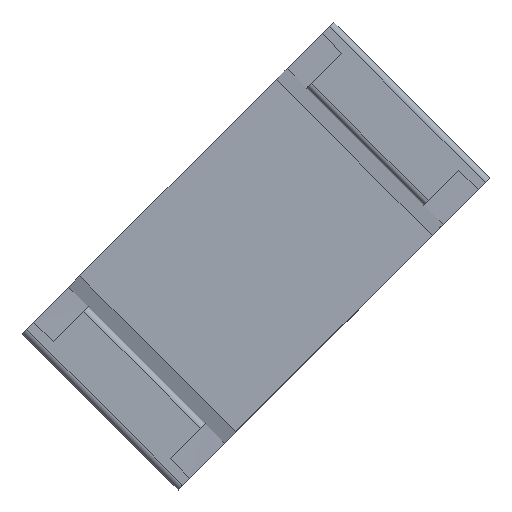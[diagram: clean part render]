
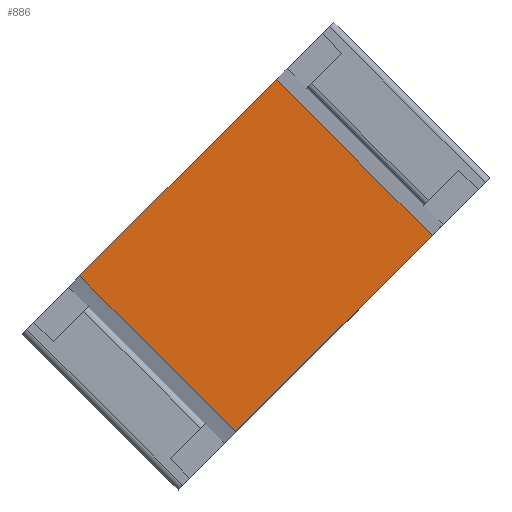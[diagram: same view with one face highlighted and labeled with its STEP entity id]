
A CAD part, top view. The second image highlights one B-rep face of the part: STEP entity #886.
In plain terms, the highlighted planar face has unit normal (0, 0, 1).
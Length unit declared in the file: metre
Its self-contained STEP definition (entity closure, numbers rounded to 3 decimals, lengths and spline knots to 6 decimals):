
#244=ORIENTED_EDGE('',*,*,#390,.T.);
#245=ORIENTED_EDGE('',*,*,#391,.T.);
#246=ORIENTED_EDGE('',*,*,#388,.F.);
#247=ORIENTED_EDGE('',*,*,#384,.F.);
#384=EDGE_CURVE('',#467,#468,#565,.T.);
#388=EDGE_CURVE('',#468,#469,#569,.T.);
#390=EDGE_CURVE('',#467,#470,#571,.T.);
#391=EDGE_CURVE('',#470,#469,#572,.T.);
#467=VERTEX_POINT('',#1666);
#468=VERTEX_POINT('',#1668);
#469=VERTEX_POINT('',#1675);
#470=VERTEX_POINT('',#1679);
#565=LINE('',#1667,#668);
#569=LINE('',#1674,#672);
#571=LINE('',#1678,#674);
#572=LINE('',#1680,#675);
#668=VECTOR('',#1423,1.);
#672=VECTOR('',#1431,1.);
#674=VECTOR('',#1435,1.);
#675=VECTOR('',#1436,1.);
#719=EDGE_LOOP('',(#244,#245,#246,#247));
#764=FACE_BOUND('',#719,.T.);
#800=PLANE('',#1214);
#886=ADVANCED_FACE('',(#764),#800,.T.);
#1214=AXIS2_PLACEMENT_3D('',#1677,#1433,#1434);
#1423=DIRECTION('',(-0.707,-0.707,0.));
#1431=DIRECTION('',(-0.707,0.707,0.));
#1433=DIRECTION('',(0.,0.,1.));
#1434=DIRECTION('',(-0.707,-0.707,0.));
#1435=DIRECTION('',(-0.707,0.707,0.));
#1436=DIRECTION('',(-0.707,-0.707,0.));
#1666=CARTESIAN_POINT('',(0.160624,-0.103754,0.002095));
#1667=CARTESIAN_POINT('',(0.160625,-0.103754,0.002095));
#1668=CARTESIAN_POINT('',(0.160179,-0.104199,0.002095));
#1674=CARTESIAN_POINT('',(0.160179,-0.104199,0.002095));
#1675=CARTESIAN_POINT('',(0.159826,-0.103846,0.002095));
#1677=CARTESIAN_POINT('',(0.160625,-0.103754,0.002095));
#1678=CARTESIAN_POINT('',(0.160624,-0.103754,0.002095));
#1679=CARTESIAN_POINT('',(0.160271,-0.103401,0.002095));
#1680=CARTESIAN_POINT('',(0.160271,-0.1034,0.002095));
